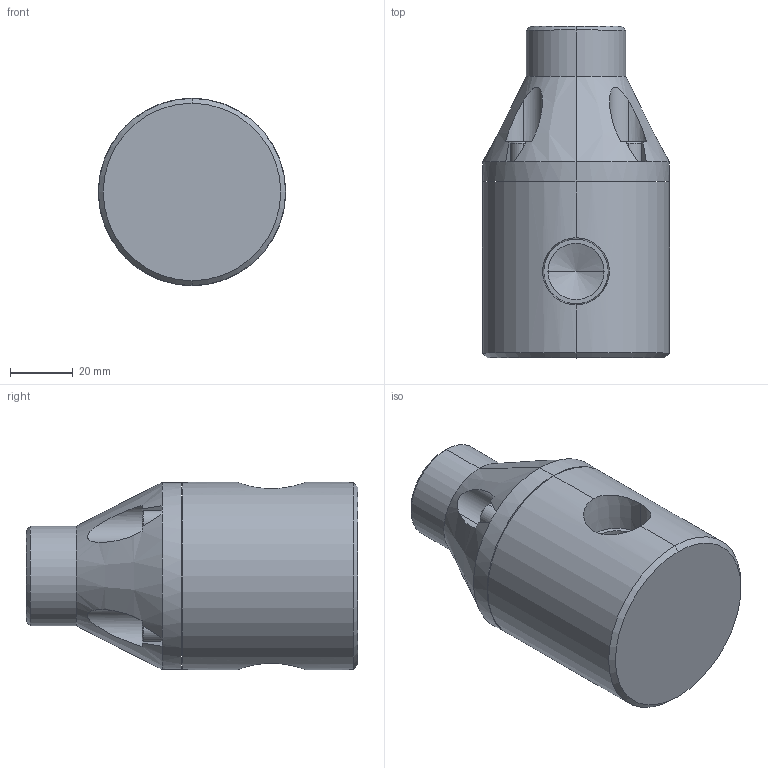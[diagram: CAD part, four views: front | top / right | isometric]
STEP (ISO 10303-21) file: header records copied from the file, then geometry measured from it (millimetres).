
FILE_DESCRIPTION (( 'STEP AP203' ), '1' );
FILE_NAME ('MBP0500NPT.STEP', '2015-03-19T10:29:24', ( 'Dan Bernard' ), ( '' ), 'SwSTEP 2.0', 'SolidWorks 2008', '' );
FILE_SCHEMA (( 'CONFIG_CONTROL_DESIGN' ));
Length unit declared in the file: inch
Products named in the file (1): MBP0500NPT
Bounding box: 59.44 x 105.41 x 59.44 mm (x, y, z)
Volume: 215797 mm3; surface area: 27771.8 mm2
Topology: 1 solids, 1 shells, 126 faces, 304 edges, 190 vertices
Faces by surface type: plane 70, cylinder 30, cone 26
Entity records: 4073 total; most frequent: CARTESIAN_POINT 1041, DIRECTION 622, ORIENTED_EDGE 600, EDGE_CURVE 300, AXIS2_PLACEMENT_3D 217, VERTEX_POINT 190, VECTOR 188, LINE 188
